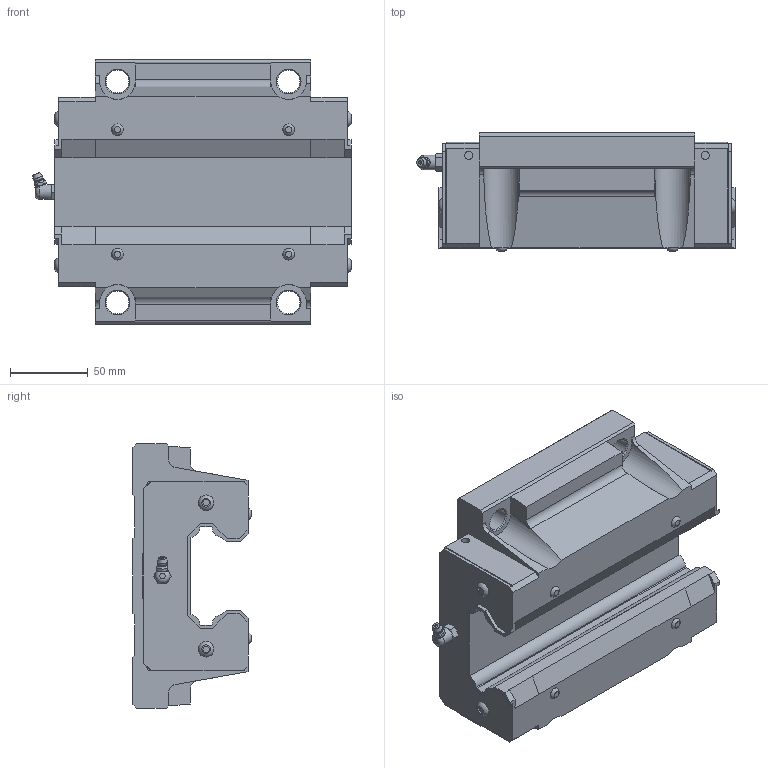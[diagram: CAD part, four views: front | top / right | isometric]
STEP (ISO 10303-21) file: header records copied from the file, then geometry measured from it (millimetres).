
FILE_DESCRIPTION(/* description */ ('STEP AP203'),/* implementation_level */ '2;1');
FILE_NAME(/* name */ 'HSR65XC1SS(GK) BLOCK(1B-PT1_8)',/* time_stamp */ '2024-05-21T04:55:30+02:00',/* author */ ('License CC BY-ND 4.0'),/* organization */ ('CADENAS'),/* preprocessor_version */ 'ST-DEVELOPER v19.3',/* originating_system */ 'PARTsolutions',/* authorisation */ ' ');
FILE_SCHEMA (('CONFIG_CONTROL_DESIGN'));
Length unit declared in the file: millimetre
Products named in the file (3): HSR65XC1SS(GK) BLOCK(1B-PT1/8); HSR65XCSSB-PT1/811 S; hsr_ftht_B-PT1/8_grease_nipple_joint
Assembly tree (2 placements, depth 2):
  HSR65XC1SS(GK) BLOCK(1B-PT1/8)
    HSR65XCSSB-PT1/811 S
    hsr_ftht_B-PT1/8_grease_nipple_joint
Bounding box: 204.7 x 76 x 170 mm (x, y, z)
Volume: 1486614.4 mm3; surface area: 125296.2 mm2
Topology: 2 solids, 2 shells, 269 faces, 708 edges, 463 vertices
Faces by surface type: plane 203, cylinder 33, cone 20, torus 11, sphere 2
Full cylindrical faces by diameter (mm): 5.2 x4, 9.6 x1, 10.2 x2, 14.5 x4
Entity records: 8008 total; most frequent: CARTESIAN_POINT 1519, ORIENTED_EDGE 1294, DIRECTION 1270, EDGE_CURVE 647, LINE 498, VECTOR 498, VERTEX_POINT 448, AXIS2_PLACEMENT_3D 386
